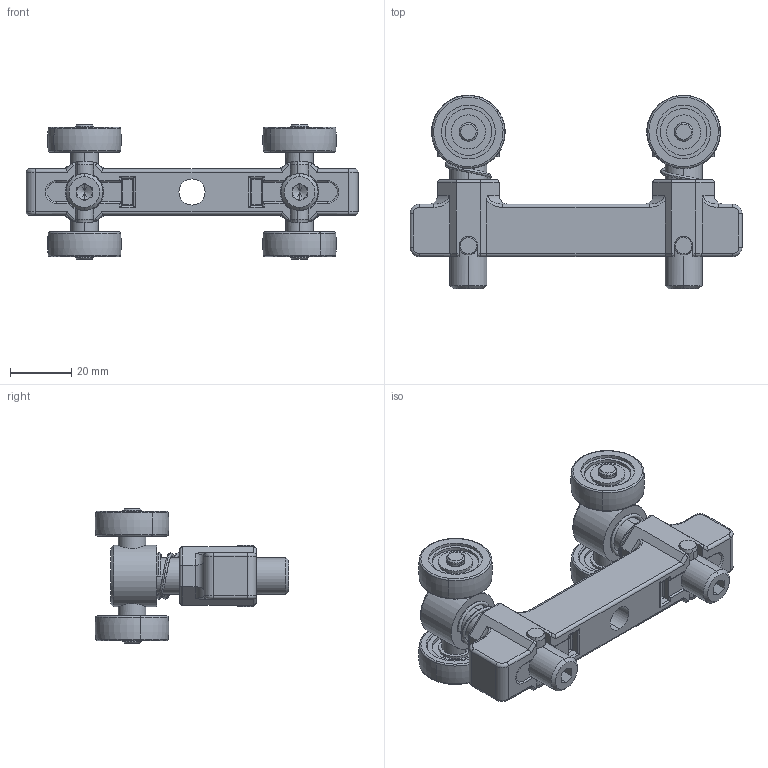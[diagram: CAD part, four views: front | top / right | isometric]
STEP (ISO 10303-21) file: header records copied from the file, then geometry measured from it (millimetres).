
FILE_DESCRIPTION (( 'STEP AP203' ), '1' );
FILE_NAME ('800.019.103.STEP', '2013-01-22T14:15:46', ( 'Alusic' ), ( 'Alusic' ), 'SwSTEP 2.0', 'SolidWorks 2011', '' );
FILE_SCHEMA (( 'CONFIG_CONTROL_DESIGN' ));
Length unit declared in the file: millimetre
Products named in the file (9): Parallel Pin ISO 8734 - 6 x 20 - A - St_Parallel Pin ISO 8734 - 6 x 20 - A - St; 800.019.120; 800.019.119; 800.019.103; 800.019.117; 800.019.116_Default<A macchina>; 800.019.121; 800.019.118; 800.019.113
Assembly tree (21 placements, depth 2):
  800.019.103
    800.019.120  x4
    800.019.119  x2
    800.019.118  x2
    Parallel Pin ISO 8734 - 6 x 20 - A - St_Parallel Pin ISO 8734 - 6 x 20 - A - St  x2
    800.019.113
    800.019.117  x4
    800.019.121  x2
    800.019.116_Default<A macchina>  x4
Bounding box: 108 x 62.98 x 43.8 mm (x, y, z)
Volume: 56773.7 mm3; surface area: 32980.8 mm2
Topology: 21 solids, 21 shells, 506 faces, 1136 edges, 694 vertices
Faces by surface type: cylinder 240, plane 160, torus 46, cone 44, bspline 16
Entity records: 11909 total; most frequent: CARTESIAN_POINT 3688, DIRECTION 1462, ORIENTED_EDGE 1448, EDGE_CURVE 724, AXIS2_PLACEMENT_3D 543, VERTEX_POINT 437, VECTOR 376, LINE 376
